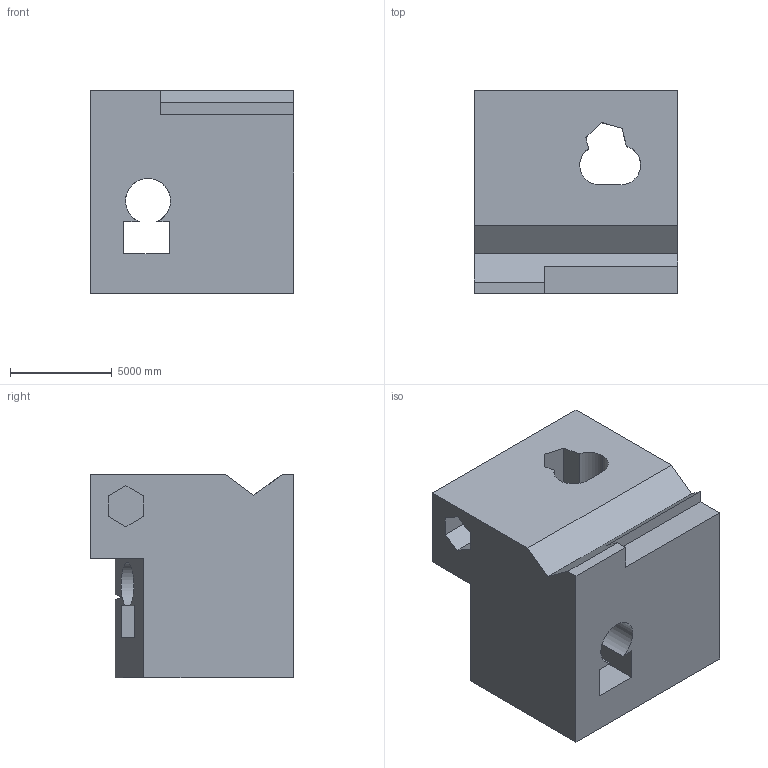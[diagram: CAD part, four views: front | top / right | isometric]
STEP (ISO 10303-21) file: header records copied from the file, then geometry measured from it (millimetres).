
FILE_DESCRIPTION (( 'STEP AP203' ), '1' );
FILE_NAME ('1830.STEP', '2022-08-26T10:43:15', ( 'user' ), ( '' ), 'SwSTEP 2.0', 'SolidWorks 2021', '' );
FILE_SCHEMA (( 'CONFIG_CONTROL_DESIGN' ));
Length unit declared in the file: centimetre
Products named in the file (1): 1830
Bounding box: 10000 x 10000 x 10000 mm (x, y, z)
Volume: 730588615101.1 mm3; surface area: 747705642.2 mm2
Topology: 1 solids, 1 shells, 39 faces, 111 edges, 74 vertices
Faces by surface type: plane 35, cylinder 4
Entity records: 1340 total; most frequent: CARTESIAN_POINT 231, ORIENTED_EDGE 222, DIRECTION 197, EDGE_CURVE 111, VECTOR 103, LINE 103, VERTEX_POINT 74, AXIS2_PLACEMENT_3D 47
